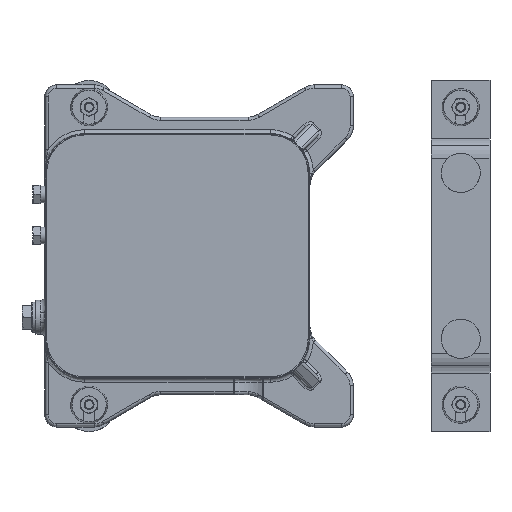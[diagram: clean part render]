
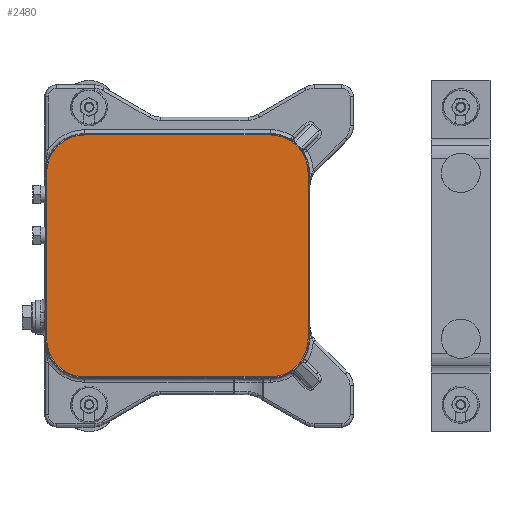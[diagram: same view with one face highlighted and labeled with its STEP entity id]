
A CAD part, top view. The second image highlights one B-rep face of the part: STEP entity #2480.
In plain terms, the highlighted planar face has unit normal (0, 0, 1).
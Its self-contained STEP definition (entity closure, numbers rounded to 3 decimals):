
#2480=ADVANCED_FACE('',(#4227),#3689,.T.);
#3689=PLANE('',#18633);
#4227=FACE_OUTER_BOUND('',#5141,.T.);
#5141=EDGE_LOOP('',(#8763,#8764,#8765,#8766,#8767,#8768,#8769,#8770));
#6653=LINE('',#26140,#7708);
#6654=LINE('',#26144,#7709);
#6655=LINE('',#26148,#7710);
#6656=LINE('',#26152,#7711);
#7708=VECTOR('',#20783,1.);
#7709=VECTOR('',#20786,1.);
#7710=VECTOR('',#20789,1.);
#7711=VECTOR('',#20792,1.);
#8763=ORIENTED_EDGE('',*,*,#15261,.T.);
#8764=ORIENTED_EDGE('',*,*,#15262,.T.);
#8765=ORIENTED_EDGE('',*,*,#15263,.T.);
#8766=ORIENTED_EDGE('',*,*,#15264,.T.);
#8767=ORIENTED_EDGE('',*,*,#15265,.T.);
#8768=ORIENTED_EDGE('',*,*,#15266,.T.);
#8769=ORIENTED_EDGE('',*,*,#15267,.T.);
#8770=ORIENTED_EDGE('',*,*,#15268,.T.);
#13677=VERTEX_POINT('',#26138);
#13678=VERTEX_POINT('',#26139);
#13679=VERTEX_POINT('',#26141);
#13680=VERTEX_POINT('',#26143);
#13681=VERTEX_POINT('',#26145);
#13682=VERTEX_POINT('',#26147);
#13683=VERTEX_POINT('',#26149);
#13684=VERTEX_POINT('',#26151);
#15261=EDGE_CURVE('',#13677,#13678,#17718,.T.);
#15262=EDGE_CURVE('',#13678,#13679,#6653,.T.);
#15263=EDGE_CURVE('',#13679,#13680,#17719,.T.);
#15264=EDGE_CURVE('',#13680,#13681,#6654,.T.);
#15265=EDGE_CURVE('',#13681,#13682,#17720,.T.);
#15266=EDGE_CURVE('',#13682,#13683,#6655,.T.);
#15267=EDGE_CURVE('',#13683,#13684,#17721,.T.);
#15268=EDGE_CURVE('',#13684,#13677,#6656,.T.);
#17718=CIRCLE('',#18629,39.);
#17719=CIRCLE('',#18630,39.);
#17720=CIRCLE('',#18631,39.);
#17721=CIRCLE('',#18632,39.);
#18629=AXIS2_PLACEMENT_3D('',#26137,#20781,#20782);
#18630=AXIS2_PLACEMENT_3D('',#26142,#20784,#20785);
#18631=AXIS2_PLACEMENT_3D('',#26146,#20787,#20788);
#18632=AXIS2_PLACEMENT_3D('',#26150,#20790,#20791);
#18633=AXIS2_PLACEMENT_3D('',#26153,#20793,#20794);
#20781=DIRECTION('',(0.,0.,1.));
#20782=DIRECTION('',(1.,0.,0.));
#20783=DIRECTION('',(0.,-1.,0.));
#20784=DIRECTION('',(0.,0.,1.));
#20785=DIRECTION('',(1.,0.,0.));
#20786=DIRECTION('',(1.,0.,0.));
#20787=DIRECTION('',(0.,0.,1.));
#20788=DIRECTION('',(1.,0.,0.));
#20789=DIRECTION('',(0.,1.,0.));
#20790=DIRECTION('',(0.,0.,1.));
#20791=DIRECTION('',(1.,0.,0.));
#20792=DIRECTION('',(-1.,0.,0.));
#20793=DIRECTION('',(0.,0.,1.));
#20794=DIRECTION('',(1.,0.,0.));
#26137=CARTESIAN_POINT('',(-217.5,85.,-144.));
#26138=CARTESIAN_POINT('',(-217.5,124.,-144.));
#26139=CARTESIAN_POINT('',(-256.5,85.,-144.));
#26140=CARTESIAN_POINT('',(-256.5,124.,-144.));
#26141=CARTESIAN_POINT('',(-256.5,-85.,-144.));
#26142=CARTESIAN_POINT('',(-217.5,-85.,-144.));
#26143=CARTESIAN_POINT('',(-217.5,-124.,-144.));
#26144=CARTESIAN_POINT('',(11.5,-124.,-144.));
#26145=CARTESIAN_POINT('',(-27.5,-124.,-144.));
#26146=CARTESIAN_POINT('',(-27.5,-85.,-144.));
#26147=CARTESIAN_POINT('',(11.5,-85.,-144.));
#26148=CARTESIAN_POINT('',(11.5,124.,-144.));
#26149=CARTESIAN_POINT('',(11.5,85.,-144.));
#26150=CARTESIAN_POINT('',(-27.5,85.,-144.));
#26151=CARTESIAN_POINT('',(-27.5,124.,-144.));
#26152=CARTESIAN_POINT('',(11.5,124.,-144.));
#26153=CARTESIAN_POINT('',(11.5,124.,-144.));
